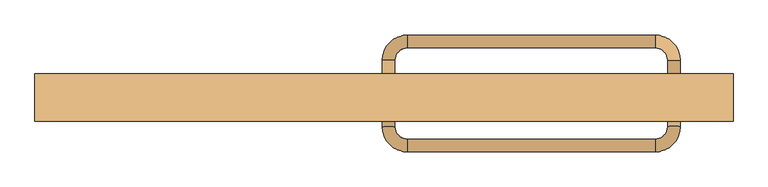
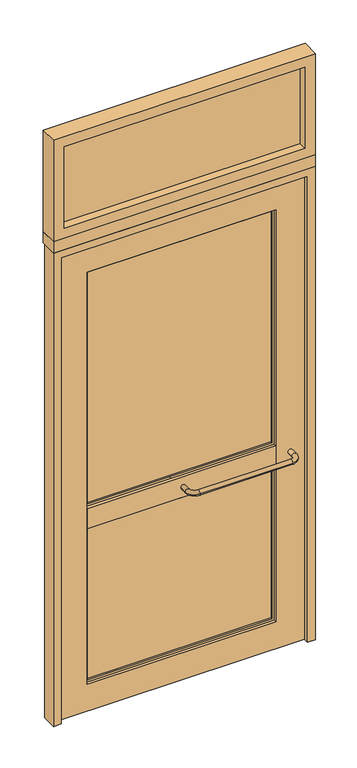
"""IFC4 building model written with IfcOpenShell, lengths in millimetres: door geometry, A3 Puerta batiente exterior VF superior : A3.1 Puerta batiente simple-exterior 110X260."""

from ifc_helpers import new_model, si_unit, point, frame, origin, place, context, project, spatial, polyline, circle_curve, ellipse_curve, trimmed, outline, extrude, source, transform, mapped, element, save
from ifc_brep_helpers import plane_surface, cylinder_surface, revolved_surface, advanced_brep


def door_9383518e(model_context):
    return source(origin(), model_context, "Body", "SolidModel", [
        advanced_brep(
        [(17.0, -11.0, 855.0), (-3.0, -11.0, 855.0), (-3.0, -41.0, 855.0), (17.0, -41.0, 855.0), (37.0, -61.0, 855.0), (37.0, -81.0, 855.0), (427.0, -81.0, 855.0), (427.0, -61.0, 855.0), (447.0, -41.0, 855.0), (467.0, -41.0, 855.0), (447.0, -11.0, 855.0), (467.0, -11.0, 855.0)],
        [
            (0, 1, circle_curve(frame((7.0, -11.0, 855.0), z_axis=(0.0, 1.0, 0.0), x_axis=(-1.0, 0.0, 0.0)), 10.0)),
            (1, 0, circle_curve(frame((7.0, -11.0, 855.0), z_axis=(0.0, 1.0, 0.0), x_axis=(-1.0, 0.0, 0.0)), 10.0)),
            (1, 2),
            (2, 3, circle_curve(frame((7.0, -41.0, 855.0), z_axis=(0.0, 1.0, 0.0), x_axis=(-1.0, 0.0, 0.0)), 10.0)),
            (3, 0),
            (3, 2, circle_curve(frame((7.0, -41.0, 855.0), z_axis=(0.0, 1.0, 0.0), x_axis=(-1.0, 0.0, 0.0)), 10.0)),
            (4, 3, circle_curve(frame((37.0, -41.0, 855.0), z_axis=(0.0, 0.0, -1.0), x_axis=(-1.0, 0.0, 0.0)), 20.0)),
            (2, 5, circle_curve(frame((37.0, -41.0, 855.0), z_axis=(0.0, 0.0, 1.0), x_axis=(-1.0, 0.0, 0.0)), 40.0)),
            (5, 4, circle_curve(frame((37.0, -71.0, 855.0), z_axis=(-1.0, 0.0, 0.0), x_axis=(0.0, -1.0, 0.0)), 10.0)),
            (4, 5, circle_curve(frame((37.0, -71.0, 855.0), z_axis=(-1.0, 0.0, 0.0), x_axis=(0.0, -1.0, 0.0)), 10.0)),
            (5, 6),
            (6, 7, circle_curve(frame((427.0, -71.0, 855.0), z_axis=(-1.0, 0.0, 0.0), x_axis=(0.0, -1.0, 0.0)), 10.0)),
            (7, 4),
            (7, 6, circle_curve(frame((427.0, -71.0, 855.0), z_axis=(-1.0, 0.0, 0.0), x_axis=(0.0, -1.0, 0.0)), 10.0)),
            (8, 7, circle_curve(frame((427.0, -41.0, 855.0), z_axis=(0.0, 0.0, -1.0), x_axis=(0.0, -1.0, 0.0)), 20.0)),
            (6, 9, circle_curve(frame((427.0, -41.0, 855.0), z_axis=(0.0, 0.0, 1.0), x_axis=(0.0, -1.0, 0.0)), 40.0)),
            (9, 8, circle_curve(frame((457.0, -41.0, 855.0), z_axis=(0.0, -1.0, 0.0), x_axis=(1.0, 0.0, 0.0)), 10.0)),
            (8, 9, circle_curve(frame((457.0, -41.0, 855.0), z_axis=(0.0, -1.0, 0.0), x_axis=(1.0, 0.0, 0.0)), 10.0)),
            (10, 11, circle_curve(frame((457.0, -11.0, 855.0), z_axis=(0.0, 1.0, 0.0), x_axis=(1.0, 0.0, 0.0)), 10.0)),
            (11, 10, circle_curve(frame((457.0, -11.0, 855.0), z_axis=(0.0, 1.0, 0.0), x_axis=(1.0, 0.0, 0.0)), 10.0)),
            (9, 11),
            (10, 8),
        ],
        [
            plane_surface(frame((7.0, -11.0, 855.0), z_axis=(0.0, 1.0, 0.0), x_axis=(0.0, 0.0, 1.0))),
            cylinder_surface(frame((7.0, -11.0, 855.0), z_axis=(0.0, 1.0, 0.0), x_axis=(-1.0, 0.0, 0.0)), 10.0),
            revolved_surface(trimmed(ellipse_curve(frame((7.0, -41.0, 855.0), z_axis=(0.0, 1.0, 0.0), x_axis=(-1.0, 0.0, 0.0)), 10.0, 10.0), [point((-3.0, -41.0, 855.0))], [point((17.0, -41.0, 855.0))], True, "CARTESIAN"), (37.0, -41.0, 855.0), (0.0, 0.0, 1.0)),
            revolved_surface(trimmed(ellipse_curve(frame((7.0, -41.0, 855.0), z_axis=(0.0, 1.0, 0.0), x_axis=(-1.0, 0.0, 0.0)), 10.0, 10.0), [point((17.0, -41.0, 855.0))], [point((-3.0, -41.0, 855.0))], True, "CARTESIAN"), (37.0, -41.0, 855.0), (0.0, 0.0, 1.0)),
            cylinder_surface(frame((37.0, -71.0, 855.0), z_axis=(-1.0, 0.0, 0.0), x_axis=(0.0, -1.0, 0.0)), 10.0),
            revolved_surface(trimmed(ellipse_curve(frame((427.0, -71.0, 855.0), z_axis=(-1.0, 0.0, 0.0), x_axis=(0.0, -1.0, 0.0)), 10.0, 10.0), [point((427.0, -81.0, 855.0))], [point((427.0, -61.0, 855.0))], True, "CARTESIAN"), (427.0, -41.0, 855.0), (0.0, 0.0, 1.0)),
            revolved_surface(trimmed(ellipse_curve(frame((427.0, -71.0, 855.0), z_axis=(-1.0, 0.0, 0.0), x_axis=(0.0, -1.0, 0.0)), 10.0, 10.0), [point((427.0, -61.0, 855.0))], [point((427.0, -81.0, 855.0))], True, "CARTESIAN"), (427.0, -41.0, 855.0), (0.0, 0.0, 1.0)),
            plane_surface(frame((457.0, -11.0, 855.0), z_axis=(0.0, 1.0, 0.0), x_axis=(0.0, 0.0, 1.0))),
            cylinder_surface(frame((457.0, -41.0, 855.0), z_axis=(0.0, -1.0, 0.0), x_axis=(1.0, 0.0, 0.0)), 10.0),
        ],
        [
            (0, [[1, 2]]),
            (1, [[-2, 3, 4, 5]]),
            (1, [[-1, -5, 6, -3]]),
            (2, [[7, -4, 8, 9]]),
            (3, [[-8, -6, -7, 10]]),
            (4, [[-9, 11, 12, 13]]),
            (4, [[-10, -13, 14, -11]]),
            (5, [[15, -12, 16, 17]]),
            (6, [[-16, -14, -15, 18]]),
            (7, [[19, 20]]),
            (8, [[-17, 21, -19, 22]]),
            (8, [[-18, -22, -20, -21]]),
        ],
    ),
        advanced_brep(
        [(17.0, 33.0, 855.0), (-3.0, 33.0, 855.0), (17.0, 63.0, 855.0), (-3.0, 63.0, 855.0), (37.0, 83.0, 855.0), (37.0, 103.0, 855.0), (427.0, 83.0, 855.0), (427.0, 103.0, 855.0), (447.0, 63.0, 855.0), (467.0, 63.0, 855.0), (447.0, 33.0, 855.0), (467.0, 33.0, 855.0)],
        [
            (0, 1, circle_curve(frame((7.0, 33.0, 855.0), z_axis=(0.0, -1.0, 0.0), x_axis=(-1.0, 0.0, 0.0)), 10.0)),
            (1, 0, circle_curve(frame((7.0, 33.0, 855.0), z_axis=(0.0, -1.0, 0.0), x_axis=(-1.0, 0.0, 0.0)), 10.0)),
            (0, 2),
            (2, 3, circle_curve(frame((7.0, 63.0, 855.0), z_axis=(0.0, -1.0, 0.0), x_axis=(-1.0, 0.0, 0.0)), 10.0)),
            (3, 1),
            (3, 2, circle_curve(frame((7.0, 63.0, 855.0), z_axis=(0.0, -1.0, 0.0), x_axis=(-1.0, 0.0, 0.0)), 10.0)),
            (4, 5, circle_curve(frame((37.0, 93.0, 855.0), z_axis=(-1.0, 0.0, 0.0), x_axis=(0.0, 1.0, 0.0)), 10.0)),
            (5, 3, circle_curve(frame((37.0, 63.0, 855.0), z_axis=(0.0, 0.0, 1.0), x_axis=(-1.0, 0.0, 0.0)), 40.0)),
            (2, 4, circle_curve(frame((37.0, 63.0, 855.0), z_axis=(0.0, 0.0, -1.0), x_axis=(-1.0, 0.0, 0.0)), 20.0)),
            (5, 4, circle_curve(frame((37.0, 93.0, 855.0), z_axis=(-1.0, 0.0, 0.0), x_axis=(0.0, 1.0, 0.0)), 10.0)),
            (4, 6),
            (6, 7, circle_curve(frame((427.0, 93.0, 855.0), z_axis=(-1.0, 0.0, 0.0), x_axis=(0.0, 1.0, 0.0)), 10.0)),
            (7, 5),
            (7, 6, circle_curve(frame((427.0, 93.0, 855.0), z_axis=(-1.0, 0.0, 0.0), x_axis=(0.0, 1.0, 0.0)), 10.0)),
            (8, 9, circle_curve(frame((457.0, 63.0, 855.0), z_axis=(0.0, 1.0, 0.0), x_axis=(1.0, 0.0, 0.0)), 10.0)),
            (9, 7, circle_curve(frame((427.0, 63.0, 855.0), z_axis=(0.0, 0.0, 1.0), x_axis=(0.0, 1.0, 0.0)), 40.0)),
            (6, 8, circle_curve(frame((427.0, 63.0, 855.0), z_axis=(0.0, 0.0, -1.0), x_axis=(0.0, 1.0, 0.0)), 20.0)),
            (9, 8, circle_curve(frame((457.0, 63.0, 855.0), z_axis=(0.0, 1.0, 0.0), x_axis=(1.0, 0.0, 0.0)), 10.0)),
            (10, 11, circle_curve(frame((457.0, 33.0, 855.0), z_axis=(0.0, -1.0, 0.0), x_axis=(1.0, 0.0, 0.0)), 10.0)),
            (11, 10, circle_curve(frame((457.0, 33.0, 855.0), z_axis=(0.0, -1.0, 0.0), x_axis=(1.0, 0.0, 0.0)), 10.0)),
            (8, 10),
            (11, 9),
        ],
        [
            plane_surface(frame((7.0, 33.0, 855.0), z_axis=(0.0, -1.0, 0.0), x_axis=(0.0, 0.0, 1.0))),
            cylinder_surface(frame((7.0, 33.0, 855.0), z_axis=(0.0, -1.0, 0.0), x_axis=(-1.0, 0.0, 0.0)), 10.0),
            revolved_surface(trimmed(ellipse_curve(frame((7.0, 63.0, 855.0), z_axis=(0.0, 1.0, 0.0), x_axis=(-1.0, 0.0, 0.0)), 10.0, 10.0), [point((-3.0, 63.0, 855.0))], [point((17.0, 63.0, 855.0))], True, "CARTESIAN"), (37.0, 63.0, 855.0), (0.0, 0.0, 1.0)),
            revolved_surface(trimmed(ellipse_curve(frame((7.0, 63.0, 855.0), z_axis=(0.0, 1.0, 0.0), x_axis=(-1.0, 0.0, 0.0)), 10.0, 10.0), [point((17.0, 63.0, 855.0))], [point((-3.0, 63.0, 855.0))], True, "CARTESIAN"), (37.0, 63.0, 855.0), (0.0, 0.0, 1.0)),
            cylinder_surface(frame((37.0, 93.0, 855.0), z_axis=(-1.0, 0.0, 0.0), x_axis=(0.0, 1.0, 0.0)), 10.0),
            revolved_surface(trimmed(ellipse_curve(frame((427.0, 93.0, 855.0), z_axis=(1.0, 0.0, 0.0), x_axis=(0.0, 1.0, 0.0)), 10.0, 10.0), [point((427.0, 103.0, 855.0))], [point((427.0, 83.0, 855.0))], True, "CARTESIAN"), (427.0, 63.0, 855.0), (0.0, 0.0, 1.0)),
            revolved_surface(trimmed(ellipse_curve(frame((427.0, 93.0, 855.0), z_axis=(1.0, 0.0, 0.0), x_axis=(0.0, 1.0, 0.0)), 10.0, 10.0), [point((427.0, 83.0, 855.0))], [point((427.0, 103.0, 855.0))], True, "CARTESIAN"), (427.0, 63.0, 855.0), (0.0, 0.0, 1.0)),
            plane_surface(frame((457.0, 33.0, 855.0), z_axis=(0.0, -1.0, 0.0), x_axis=(0.0, 0.0, 1.0))),
            cylinder_surface(frame((457.0, 63.0, 855.0), z_axis=(0.0, 1.0, 0.0), x_axis=(1.0, 0.0, 0.0)), 10.0),
        ],
        [
            (0, [[1, 2]]),
            (1, [[3, 4, 5, -1]]),
            (1, [[-5, 6, -3, -2]]),
            (2, [[7, 8, -4, 9]]),
            (3, [[10, -9, -6, -8]]),
            (4, [[11, 12, 13, -7]]),
            (4, [[-13, 14, -11, -10]]),
            (5, [[15, 16, -12, 17]]),
            (6, [[18, -17, -14, -16]]),
            (7, [[19, 20]]),
            (8, [[21, -20, 22, -15]]),
            (8, [[-22, -19, -21, -18]]),
        ],
    ),
        extrude(outline(polyline([(550.0, -33.0), (-550.0, -33.0), (-550.0, 42.0), (550.0, 42.0), (550.0, -33.0)])), frame((0.0, 0.0, 2100.0), z_axis=(0.0, 0.0, 1.0), x_axis=(1.0, 0.0, 0.0)), (0.0, 0.0, 1.0), 50.0),
        extrude(outline(polyline([(2100.0, 550.0), (2100.0, -550.0), (0.0, -550.0), (0.0, -517.0), (2067.0, -517.0), (2067.0, 517.0), (0.0, 517.0), (0.0, 550.0), (2100.0, 550.0)])), frame((0.0, -33.0, 0.0), z_axis=(0.0, 1.0, 0.0), x_axis=(0.0, 0.0, 1.0)), (0.0, 0.0, 1.0), 66.0),
        extrude(outline(polyline([(2067.0, -517.0), (0.0, -517.0), (0.0, 517.0), (2067.0, 517.0), (2067.0, -517.0)]), holes=[polyline([(1947.0, -397.0), (1947.0, 397.0), (120.0, 397.0), (120.0, -397.0), (1947.0, -397.0)])]), frame((0.0, -11.0, 0.0), z_axis=(0.0, 1.0, 0.0), x_axis=(0.0, 0.0, 1.0)), (0.0, 0.0, 1.0), 44.0),
        extrude(outline(polyline([(397.0, -11.0), (-397.0, -11.0), (-397.0, 33.0), (397.0, 33.0), (397.0, -11.0)])), frame((0.0, 0.0, 810.0), z_axis=(0.0, 0.0, 1.0), x_axis=(1.0, 0.0, 0.0)), (0.0, 0.0, 1.0), 90.0),
        extrude(outline(polyline([(1947.0, -397.0), (900.0, -397.0), (900.0, 397.0), (1947.0, 397.0), (1947.0, -397.0)]), holes=[polyline([(1937.0, -387.0), (1937.0, 387.0), (910.0, 387.0), (910.0, -387.0), (1937.0, -387.0)])]), frame((0.0, 1.0, 0.0), z_axis=(0.0, 1.0, 0.0), x_axis=(0.0, 0.0, 1.0)), (0.0, 0.0, 1.0), 20.0),
        extrude(outline(polyline([(810.0, -397.0), (120.0, -397.0), (120.0, 397.0), (810.0, 397.0), (810.0, -397.0)]), holes=[polyline([(800.0, -387.0), (800.0, 387.0), (130.0, 387.0), (130.0, -387.0), (800.0, -387.0)])]), frame((0.0, 1.0, 0.0), z_axis=(0.0, 1.0, 0.0), x_axis=(0.0, 0.0, 1.0)), (0.0, 0.0, 1.0), 20.0),
        extrude(outline(polyline([(387.0, 8.0), (-387.0, 8.0), (-387.0, 14.0), (387.0, 14.0), (387.0, 8.0)])), frame((0.0, 0.0, 910.0), z_axis=(0.0, 0.0, 1.0), x_axis=(1.0, 0.0, 0.0)), (0.0, 0.0, 1.0), 1027.0),
        extrude(outline(polyline([(387.0, 8.0), (-387.0, 8.0), (-387.0, 14.0), (387.0, 14.0), (387.0, 8.0)])), frame((0.0, 0.0, 130.0), z_axis=(0.0, 0.0, 1.0), x_axis=(1.0, 0.0, 0.0)), (0.0, 0.0, 1.0), 670.0),
        extrude(outline(polyline([(505.0, 1.5), (-505.0, 1.5), (-505.0, 7.5), (505.0, 7.5), (505.0, 1.5)])), frame((0.0, 0.0, 2195.0), z_axis=(0.0, 0.0, 1.0), x_axis=(1.0, 0.0, 0.0)), (0.0, 0.0, 1.0), 360.0),
        extrude(outline(polyline([(2600.0, -550.0), (2150.0, -550.0), (2150.0, 550.0), (2600.0, 550.0), (2600.0, -550.0)]), holes=[polyline([(2555.0, -505.0), (2555.0, 505.0), (2195.0, 505.0), (2195.0, -505.0), (2555.0, -505.0)])]), frame((0.0, -33.0, 0.0), z_axis=(0.0, 1.0, 0.0), x_axis=(0.0, 0.0, 1.0)), (0.0, 0.0, 1.0), 75.0),
    ])


if __name__ == "__main__":
    model = new_model("IFC4")
    model_context = context("Model", 3, world=origin())
    ifc_project = project(units=[si_unit("LENGTHUNIT", "METRE", prefix="MILLI")], contexts=[model_context])
    site = spatial("IfcSite", under=ifc_project)
    building = spatial("IfcBuilding", under=site)
    placement = place(None, origin())
    door_shape = door_9383518e(model_context)
    element("IfcDoor", 1, ObjectType="A3 Puerta batiente exterior VF superior : A3.1 Puerta batiente simple-exterior 110X260", at=placement, inside=building, context=model_context, shape_type="MappedRepresentation", body=[
        mapped(door_shape, transform((0.0, 0.0, 0.0), x_axis=(1.0, 0.0, 0.0), y_axis=(0.0, 1.0, 0.0), z_axis=(0.0, 0.0, 1.0))),
    ])
    save(model, "model.ifc")
